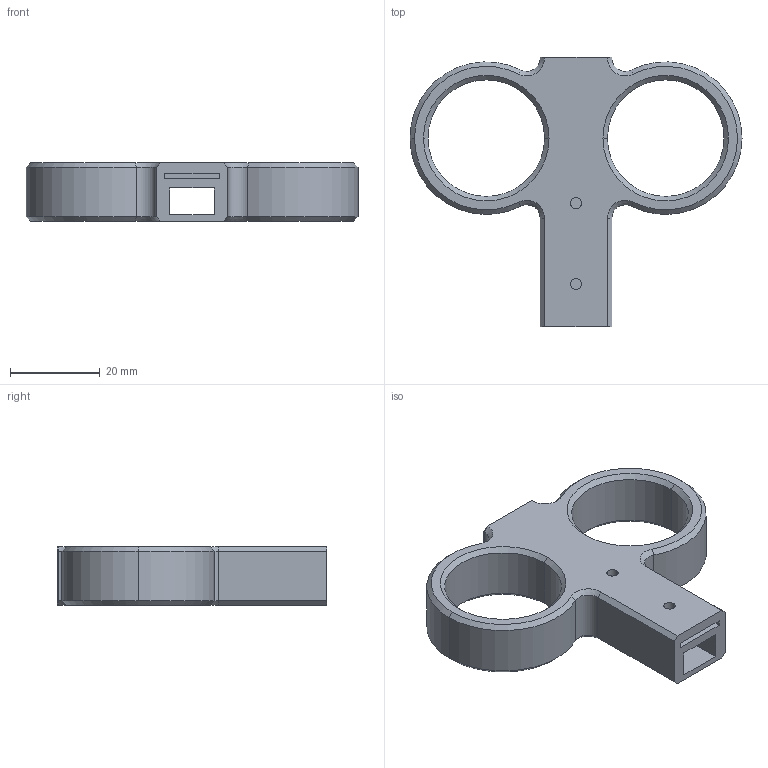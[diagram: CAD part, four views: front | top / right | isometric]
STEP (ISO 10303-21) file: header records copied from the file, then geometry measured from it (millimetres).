
FILE_DESCRIPTION (( 'STEP AP214' ), '1' );
FILE_NAME ('Handle Rev-1.STEP', '2025-11-17T00:45:24', ( 'Admin' ), ( '' ), 'SwSTEP 2.0', 'SolidWorks 2023', '' );
FILE_SCHEMA (( 'AUTOMOTIVE_DESIGN' ));
Length unit declared in the file: millimetre
Products named in the file (1): Handle Rev-1
Bounding box: 74 x 60 x 13 mm (x, y, z)
Volume: 15881.6 mm3; surface area: 10877 mm2
Topology: 1 solids, 1 shells, 66 faces, 164 edges, 101 vertices
Faces by surface type: plane 25, cone 22, cylinder 19
Entity records: 2000 total; most frequent: DIRECTION 359, CARTESIAN_POINT 332, ORIENTED_EDGE 328, EDGE_CURVE 164, AXIS2_PLACEMENT_3D 128, VECTOR 103, LINE 103, VERTEX_POINT 101
